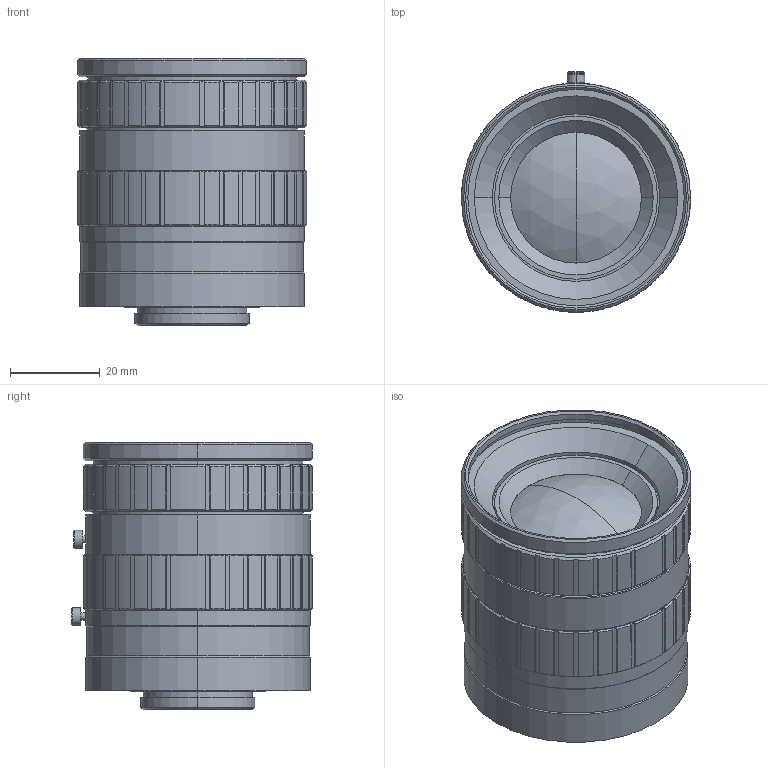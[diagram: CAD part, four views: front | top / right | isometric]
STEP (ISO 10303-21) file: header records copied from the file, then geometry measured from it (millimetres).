
FILE_DESCRIPTION (( 'STEP AP214' ), '1' );
FILE_NAME ('CF50HA-1_3D_Modeling.STEP', '2016-06-07T04:12:06', ( '富士フイルム株式会社' ), ( '富士フイルム株式会社' ), 'SwSTEP 2.0', 'SolidWorks 2014', '' );
FILE_SCHEMA (( 'AUTOMOTIVE_DESIGN' ));
Length unit declared in the file: millimetre
Products named in the file (1): CF50HA-1_3D_Modeling
Bounding box: 51 x 53.6 x 59.49 mm (x, y, z)
Volume: 97837.8 mm3; surface area: 16170.1 mm2
Topology: 1 solids, 1 shells, 367 faces, 994 edges, 652 vertices
Faces by surface type: cylinder 174, plane 151, cone 38, sphere 4
Entity records: 12080 total; most frequent: CARTESIAN_POINT 2934, ORIENTED_EDGE 1988, DIRECTION 1864, EDGE_CURVE 994, AXIS2_PLACEMENT_3D 762, VERTEX_POINT 652, CIRCLE 394, EDGE_LOOP 390
